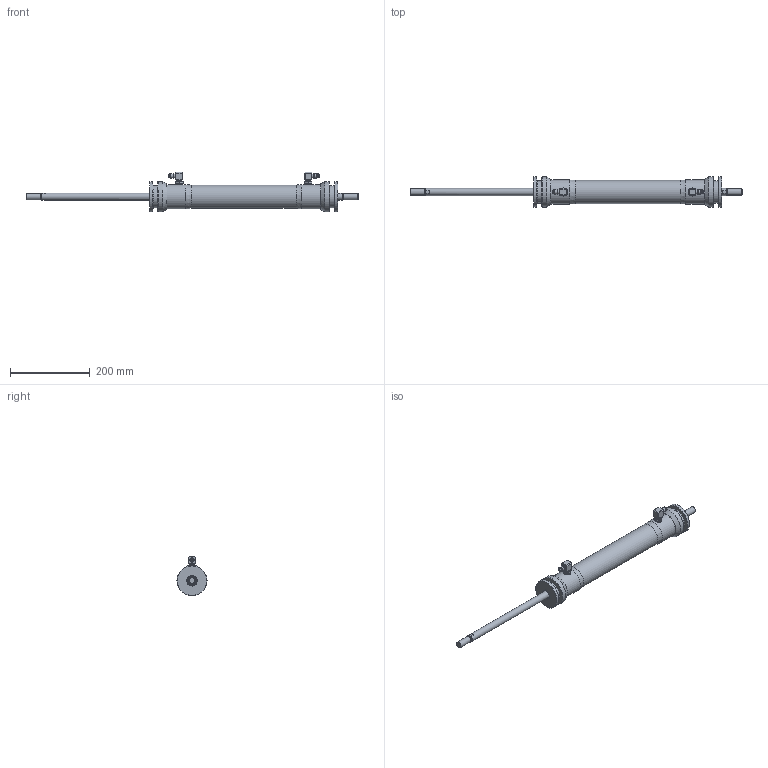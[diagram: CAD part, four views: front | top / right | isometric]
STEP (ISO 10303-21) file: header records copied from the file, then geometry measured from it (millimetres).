
FILE_DESCRIPTION(/* description */ (''),/* implementation_level */ '2;1');
FILE_NAME(/* name */ 'C:\STP.CR\TDA-71_Simplify_1 Rev1.stp',/* time_stamp */ '2021-11-02T11:06:09+00:00',/* author */ ('AL'),/* organization */ (''),/* preprocessor_version */ 'ST-DEVELOPER v18.1',/* originating_system */ 'Autodesk Inventor 2022',/* authorisation */ '');
FILE_SCHEMA (('AUTOMOTIVE_DESIGN { 1 0 10303 214 3 1 1 }'));
Length unit declared in the file: millimetre
Products named in the file (1): TDA-71_Simplify_1
Bounding box: 834.4 x 75.4 x 99.2 mm (x, y, z)
Volume: 1485656.1 mm3; surface area: 141432.4 mm2
Topology: 1 solids, 1 shells, 185 faces, 377 edges, 230 vertices
Faces by surface type: plane 84, cylinder 47, cone 38, torus 16
Full cylindrical faces by diameter (mm): 10.01 x4, 11.01 x2, 11.11 x2, 11.157 x2, 12.157 x2, 13.157 x4, 13.424 x2, 15.824 x2, 18 x2, 18.3 x4, 20 x2, 22 x2, 23 x2, 26.6 x2, 56 x2, 58.4 x1, 61.4 x2, 75.4 x4
Entity records: 5135 total; most frequent: CARTESIAN_POINT 949, DIRECTION 879, ORIENTED_EDGE 754, EDGE_CURVE 377, AXIS2_PLACEMENT_3D 358, VERTEX_POINT 230, EDGE_LOOP 221, STYLED_ITEM 186
